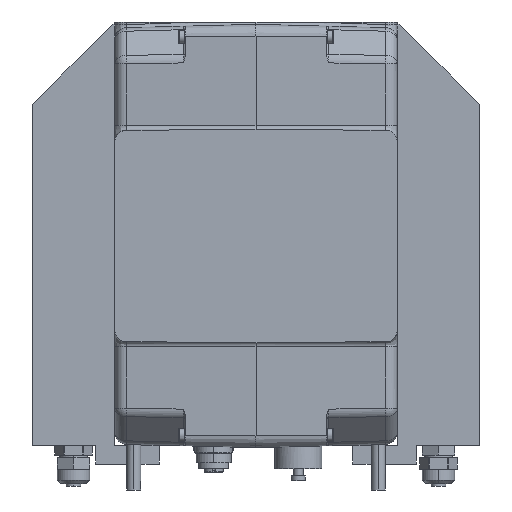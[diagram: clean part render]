
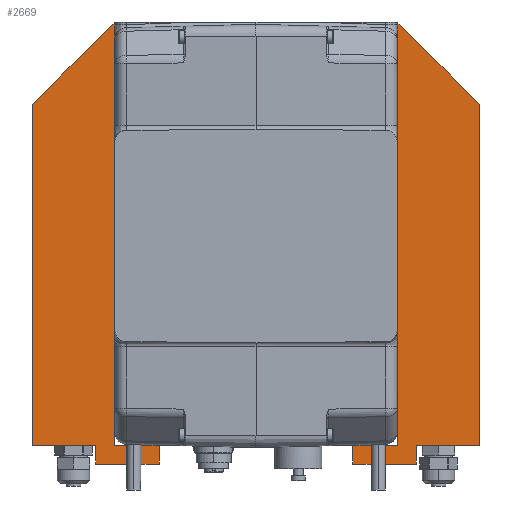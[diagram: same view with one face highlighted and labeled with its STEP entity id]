
A CAD part, front view. The second image highlights one B-rep face of the part: STEP entity #2669.
In plain terms, the highlighted planar face has unit normal (0, -1, 0).
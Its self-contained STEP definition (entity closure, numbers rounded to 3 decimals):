
#235=DIRECTION('',(-1.,0.,0.));
#236=VECTOR('',#235,26.8);
#237=CARTESIAN_POINT('',(-68.2,-31.,-124.));
#238=LINE('',#237,#236);
#293=DIRECTION('',(0.,0.,-1.));
#294=VECTOR('',#293,8.);
#295=CARTESIAN_POINT('',(-68.2,-31.,-124.));
#296=LINE('',#295,#294);
#297=DIRECTION('',(0.,0.,-1.));
#298=VECTOR('',#297,8.);
#299=CARTESIAN_POINT('',(-41.2,-31.,-124.));
#300=LINE('',#299,#298);
#301=DIRECTION('',(0.,0.,1.));
#302=VECTOR('',#301,145.);
#303=CARTESIAN_POINT('',(-95.,-31.,-124.));
#304=LINE('',#303,#302);
#305=DIRECTION('',(1.,0.,0.));
#306=VECTOR('',#305,115.858);
#307=CARTESIAN_POINT('',(-57.929,-31.,56.));
#308=LINE('',#307,#306);
#309=DIRECTION('',(0.,0.,-1.));
#310=VECTOR('',#309,145.);
#311=CARTESIAN_POINT('',(95.,-31.,21.));
#312=LINE('',#311,#310);
#313=DIRECTION('',(0.,0.,-1.));
#314=VECTOR('',#313,8.);
#315=CARTESIAN_POINT('',(68.2,-31.,-124.));
#316=LINE('',#315,#314);
#317=DIRECTION('',(-1.,0.,0.));
#318=VECTOR('',#317,10.416);
#319=CARTESIAN_POINT('',(56.2,-31.,4.));
#320=LINE('',#319,#318);
#321=DIRECTION('',(-0.259,0.,0.966));
#322=VECTOR('',#321,8.952);
#323=CARTESIAN_POINT('',(45.784,-31.,4.));
#324=LINE('',#323,#322);
#325=CARTESIAN_POINT('',(0.,-31.,1.));
#326=DIRECTION('',(0.,-1.,0.));
#327=DIRECTION('',(0.966,0.,0.259));
#328=AXIS2_PLACEMENT_3D('',#325,#326,#327);
#330=DIRECTION('',(-0.259,0.,-0.966));
#331=VECTOR('',#330,8.952);
#332=CARTESIAN_POINT('',(-43.467,-31.,12.647));
#333=LINE('',#332,#331);
#334=DIRECTION('',(-1.,0.,0.));
#335=VECTOR('',#334,10.416);
#336=CARTESIAN_POINT('',(-45.784,-31.,4.));
#337=LINE('',#336,#335);
#342=DIRECTION('',(0.,0.,1.));
#343=VECTOR('',#342,124.);
#344=CARTESIAN_POINT('',(-60.2,-31.,-124.));
#345=LINE('',#344,#343);
#358=DIRECTION('',(-1.,0.,0.));
#359=VECTOR('',#358,19.);
#360=CARTESIAN_POINT('',(-41.2,-31.,-124.));
#361=LINE('',#360,#359);
#435=DIRECTION('',(-1.,0.,0.));
#436=VECTOR('',#435,27.);
#437=CARTESIAN_POINT('',(-41.2,-31.,-132.));
#438=LINE('',#437,#436);
#447=CARTESIAN_POINT('',(-56.2,-31.,0.));
#448=DIRECTION('',(0.,1.,0.));
#449=DIRECTION('',(-1.,0.,0.));
#450=AXIS2_PLACEMENT_3D('',#447,#448,#449);
#661=CARTESIAN_POINT('',(56.2,-31.,0.));
#662=DIRECTION('',(0.,1.,0.));
#663=DIRECTION('',(0.,0.,1.));
#664=AXIS2_PLACEMENT_3D('',#661,#662,#663);
#683=DIRECTION('',(0.,0.,-1.));
#684=VECTOR('',#683,124.);
#685=CARTESIAN_POINT('',(60.2,-31.,0.));
#686=LINE('',#685,#684);
#687=DIRECTION('',(-1.,0.,0.));
#688=VECTOR('',#687,19.);
#689=CARTESIAN_POINT('',(60.2,-31.,-124.));
#690=LINE('',#689,#688);
#719=DIRECTION('',(0.,0.,-1.));
#720=VECTOR('',#719,8.);
#721=CARTESIAN_POINT('',(41.2,-31.,-124.));
#722=LINE('',#721,#720);
#727=DIRECTION('',(-1.,0.,0.));
#728=VECTOR('',#727,27.);
#729=CARTESIAN_POINT('',(68.2,-31.,-132.));
#730=LINE('',#729,#728);
#747=DIRECTION('',(1.,0.,0.));
#748=VECTOR('',#747,26.8);
#749=CARTESIAN_POINT('',(68.2,-31.,-124.));
#750=LINE('',#749,#748);
#987=DIRECTION('',(-0.707,0.,-0.707));
#988=VECTOR('',#987,47.426);
#989=CARTESIAN_POINT('',(-61.464,-31.,54.536));
#990=LINE('',#989,#988);
#1012=CARTESIAN_POINT('',(-57.929,-31.,51.));
#1013=DIRECTION('',(0.,1.,0.));
#1014=DIRECTION('',(-0.707,0.,0.707));
#1015=AXIS2_PLACEMENT_3D('',#1012,#1013,#1014);
#1021=CARTESIAN_POINT('',(57.929,-31.,51.));
#1022=DIRECTION('',(0.,-1.,0.));
#1023=DIRECTION('',(0.707,0.,0.707));
#1024=AXIS2_PLACEMENT_3D('',#1021,#1022,#1023);
#1039=DIRECTION('',(-0.707,0.,0.707));
#1040=VECTOR('',#1039,47.426);
#1041=CARTESIAN_POINT('',(95.,-31.,21.));
#1042=LINE('',#1041,#1040);
#1777=CARTESIAN_POINT('',(-95.,-31.,21.));
#1779=VERTEX_POINT('',#1777);
#1781=CARTESIAN_POINT('',(95.,-31.,21.));
#1783=VERTEX_POINT('',#1781);
#1785=CARTESIAN_POINT('',(-95.,-31.,-124.));
#1786=VERTEX_POINT('',#1785);
#1787=CARTESIAN_POINT('',(95.,-31.,-124.));
#1788=VERTEX_POINT('',#1787);
#1789=CARTESIAN_POINT('',(-61.464,-31.,54.536));
#1791=VERTEX_POINT('',#1789);
#1793=CARTESIAN_POINT('',(-57.929,-31.,56.));
#1795=VERTEX_POINT('',#1793);
#1797=CARTESIAN_POINT('',(61.464,-31.,54.536));
#1799=VERTEX_POINT('',#1797);
#1801=CARTESIAN_POINT('',(57.929,-31.,56.));
#1803=VERTEX_POINT('',#1801);
#1805=CARTESIAN_POINT('',(-60.2,-31.,0.));
#1806=CARTESIAN_POINT('',(-56.2,-31.,4.));
#1807=VERTEX_POINT('',#1805);
#1808=VERTEX_POINT('',#1806);
#1809=CARTESIAN_POINT('',(56.2,-31.,4.));
#1810=CARTESIAN_POINT('',(60.2,-31.,0.));
#1811=VERTEX_POINT('',#1809);
#1812=VERTEX_POINT('',#1810);
#1813=CARTESIAN_POINT('',(45.784,-31.,4.));
#1814=CARTESIAN_POINT('',(43.467,-31.,12.647));
#1815=VERTEX_POINT('',#1813);
#1816=VERTEX_POINT('',#1814);
#1817=CARTESIAN_POINT('',(-43.467,-31.,12.647));
#1818=CARTESIAN_POINT('',(-45.784,-31.,4.));
#1819=VERTEX_POINT('',#1817);
#1820=VERTEX_POINT('',#1818);
#1885=CARTESIAN_POINT('',(41.2,-31.,-124.));
#1887=VERTEX_POINT('',#1885);
#1889=CARTESIAN_POINT('',(41.2,-31.,-132.));
#1891=VERTEX_POINT('',#1889);
#1895=CARTESIAN_POINT('',(68.2,-31.,-132.));
#1896=VERTEX_POINT('',#1895);
#1921=CARTESIAN_POINT('',(68.2,-31.,-124.));
#1923=VERTEX_POINT('',#1921);
#1925=CARTESIAN_POINT('',(60.2,-31.,-124.));
#1927=VERTEX_POINT('',#1925);
#1930=CARTESIAN_POINT('',(-41.2,-31.,-124.));
#1932=VERTEX_POINT('',#1930);
#1934=CARTESIAN_POINT('',(-41.2,-31.,-132.));
#1936=VERTEX_POINT('',#1934);
#1937=CARTESIAN_POINT('',(-68.2,-31.,-132.));
#1938=VERTEX_POINT('',#1937);
#1965=CARTESIAN_POINT('',(-68.2,-31.,-124.));
#1967=VERTEX_POINT('',#1965);
#1969=CARTESIAN_POINT('',(-60.2,-31.,-124.));
#1971=VERTEX_POINT('',#1969);
#2612=CARTESIAN_POINT('',(0.,-31.,1.));
#2613=DIRECTION('',(0.,1.,0.));
#2614=DIRECTION('',(1.,0.,0.));
#2615=AXIS2_PLACEMENT_3D('',#2612,#2613,#2614);
#2616=PLANE('',#2615);
#2618=ORIENTED_EDGE('',*,*,#2617,.F.);
#2620=ORIENTED_EDGE('',*,*,#2619,.F.);
#2622=ORIENTED_EDGE('',*,*,#2621,.T.);
#2624=ORIENTED_EDGE('',*,*,#2623,.T.);
#2625=ORIENTED_EDGE('',*,*,#2603,.F.);
#2626=ORIENTED_EDGE('',*,*,#2567,.T.);
#2628=ORIENTED_EDGE('',*,*,#2627,.T.);
#2630=ORIENTED_EDGE('',*,*,#2629,.F.);
#2632=ORIENTED_EDGE('',*,*,#2631,.T.);
#2634=ORIENTED_EDGE('',*,*,#2633,.T.);
#2636=ORIENTED_EDGE('',*,*,#2635,.F.);
#2638=ORIENTED_EDGE('',*,*,#2637,.F.);
#2640=ORIENTED_EDGE('',*,*,#2639,.T.);
#2642=ORIENTED_EDGE('',*,*,#2641,.F.);
#2644=ORIENTED_EDGE('',*,*,#2643,.T.);
#2646=ORIENTED_EDGE('',*,*,#2645,.T.);
#2648=ORIENTED_EDGE('',*,*,#2647,.F.);
#2650=ORIENTED_EDGE('',*,*,#2649,.F.);
#2652=ORIENTED_EDGE('',*,*,#2651,.F.);
#2654=ORIENTED_EDGE('',*,*,#2653,.F.);
#2656=ORIENTED_EDGE('',*,*,#2655,.T.);
#2658=ORIENTED_EDGE('',*,*,#2657,.T.);
#2660=ORIENTED_EDGE('',*,*,#2659,.T.);
#2662=ORIENTED_EDGE('',*,*,#2661,.T.);
#2664=ORIENTED_EDGE('',*,*,#2663,.T.);
#2666=ORIENTED_EDGE('',*,*,#2665,.F.);
#2667=EDGE_LOOP('',(#2618,#2620,#2622,#2624,#2625,#2626,#2628,#2630,#2632,#2634,
#2636,#2638,#2640,#2642,#2644,#2646,#2648,#2650,#2652,#2654,#2656,#2658,#2660,
#2662,#2664,#2666));
#2668=FACE_OUTER_BOUND('',#2667,.F.);
#2669=ADVANCED_FACE('',(#2668),#2616,.F.);
#329=CIRCLE('',#328,45.);
#451=CIRCLE('',#450,4.);
#665=CIRCLE('',#664,4.);
#1016=CIRCLE('',#1015,5.);
#1025=CIRCLE('',#1024,5.);
#2567=EDGE_CURVE('',#1967,#1786,#238,.T.);
#2603=EDGE_CURVE('',#1967,#1938,#296,.T.);
#2617=EDGE_CURVE('',#1971,#1807,#345,.T.);
#2619=EDGE_CURVE('',#1932,#1971,#361,.T.);
#2621=EDGE_CURVE('',#1932,#1936,#300,.T.);
#2623=EDGE_CURVE('',#1936,#1938,#438,.T.);
#2627=EDGE_CURVE('',#1786,#1779,#304,.T.);
#2629=EDGE_CURVE('',#1791,#1779,#990,.T.);
#2631=EDGE_CURVE('',#1791,#1795,#1016,.T.);
#2633=EDGE_CURVE('',#1795,#1803,#308,.T.);
#2635=EDGE_CURVE('',#1799,#1803,#1025,.T.);
#2637=EDGE_CURVE('',#1783,#1799,#1042,.T.);
#2639=EDGE_CURVE('',#1783,#1788,#312,.T.);
#2641=EDGE_CURVE('',#1923,#1788,#750,.T.);
#2643=EDGE_CURVE('',#1923,#1896,#316,.T.);
#2645=EDGE_CURVE('',#1896,#1891,#730,.T.);
#2647=EDGE_CURVE('',#1887,#1891,#722,.T.);
#2649=EDGE_CURVE('',#1927,#1887,#690,.T.);
#2651=EDGE_CURVE('',#1812,#1927,#686,.T.);
#2653=EDGE_CURVE('',#1811,#1812,#665,.T.);
#2655=EDGE_CURVE('',#1811,#1815,#320,.T.);
#2657=EDGE_CURVE('',#1815,#1816,#324,.T.);
#2659=EDGE_CURVE('',#1816,#1819,#329,.T.);
#2661=EDGE_CURVE('',#1819,#1820,#333,.T.);
#2663=EDGE_CURVE('',#1820,#1808,#337,.T.);
#2665=EDGE_CURVE('',#1807,#1808,#451,.T.);
